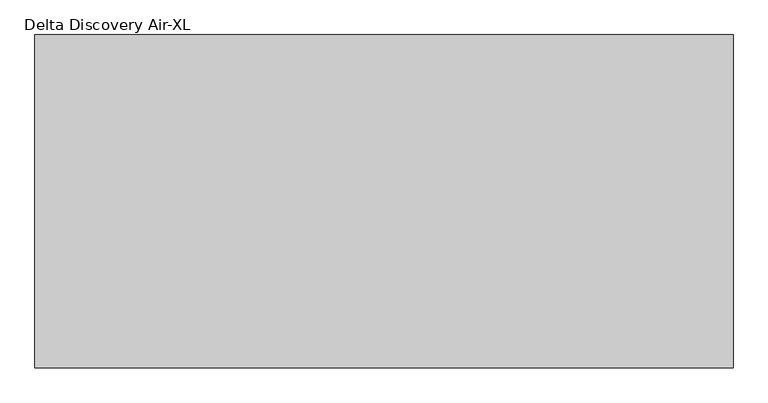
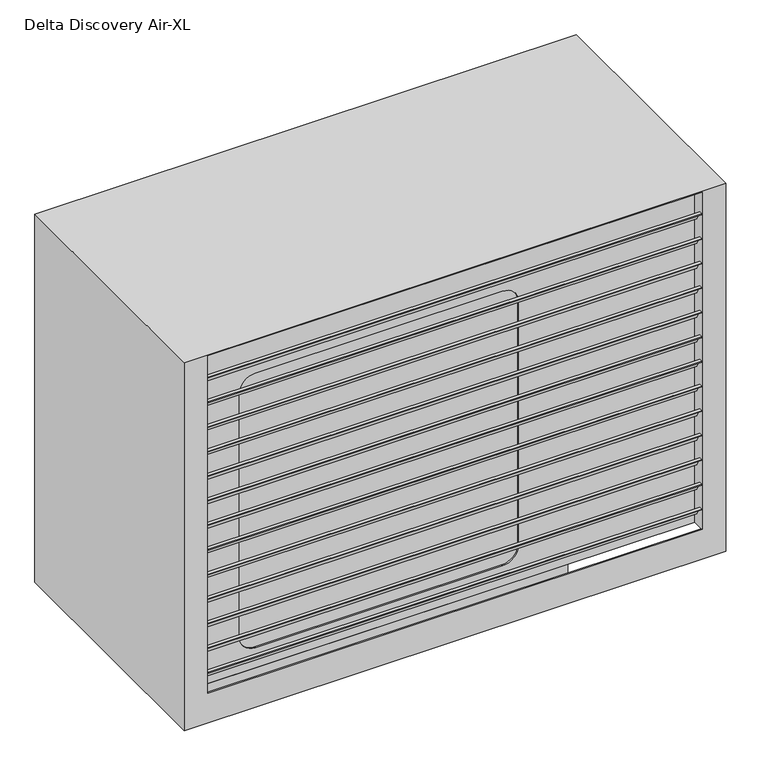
"""IFC4 building model written with IfcOpenShell, lengths in millimetres: unitary equipment geometry, DERS_420_AM_AEB_Delta Discovery Air_M&G : Delta Discovery Air-XL."""

from ifc_helpers import new_model, si_unit, frame, origin, place, context, project, spatial, polyline, circle_curve, outline, extrude, source, transform, mapped, element, save
from ifc_brep_helpers import plane_surface, revolved_surface, advanced_brep


def delta_discovery_air_xl_14b97afa(model_context):
    return source(origin(), model_context, "Body", "SolidModel", [
        extrude(outline(polyline([(-806.0, 1183.0669404), (-806.0, 1185.0669404), (-795.1452995, 1185.0669404), (-777.4452995, 1154.4096411), (-767.8, 1154.4096411), (-767.8, 1152.4096411), (-778.6, 1152.4096411), (-796.3, 1183.0669404), (-806.0, 1183.0669404)])), frame((-769.0, 0.0, 0.0), z_axis=(1.0, 0.0, 0.0), x_axis=(0.0, 1.0, 0.0)), (0.0, 0.0, 1.0), 1538.0),
        extrude(outline(polyline([(-806.0, 1102.038382), (-806.0, 1104.038382), (-795.1452995, 1104.038382), (-777.4452995, 1073.3810827), (-767.8, 1073.3810827), (-767.8, 1071.3810827), (-778.6, 1071.3810827), (-796.3, 1102.038382), (-806.0, 1102.038382)])), frame((-769.0, 0.0, 0.0), z_axis=(1.0, 0.0, 0.0), x_axis=(0.0, 1.0, 0.0)), (0.0, 0.0, 1.0), 1538.0),
        extrude(outline(polyline([(-806.0, 1021.0098236), (-806.0, 1023.0098236), (-795.1452995, 1023.0098236), (-777.4452995, 992.3525244), (-767.8, 992.3525244), (-767.8, 990.3525244), (-778.6, 990.3525244), (-796.3, 1021.0098236), (-806.0, 1021.0098236)])), frame((-769.0, 0.0, 0.0), z_axis=(1.0, 0.0, 0.0), x_axis=(0.0, 1.0, 0.0)), (0.0, 0.0, 1.0), 1538.0),
        extrude(outline(polyline([(-38.2, 1183.0669404), (-38.2, 1185.0669404), (-27.3452995, 1185.0669404), (-9.6452995, 1154.4096411), (0.0, 1154.4096411), (0.0, 1152.4096411), (-10.8, 1152.4096411), (-28.5, 1183.0669404), (-38.2, 1183.0669404)])), frame((-769.0, 0.0, 0.0), z_axis=(1.0, 0.0, 0.0), x_axis=(0.0, 1.0, 0.0)), (0.0, 0.0, 1.0), 1538.0),
        extrude(outline(polyline([(-38.2, 1102.038382), (-38.2, 1104.038382), (-27.3452995, 1104.038382), (-9.6452995, 1073.3810827), (0.0, 1073.3810827), (0.0, 1071.3810827), (-10.8, 1071.3810827), (-28.5, 1102.038382), (-38.2, 1102.038382)])), frame((-769.0, 0.0, 0.0), z_axis=(1.0, 0.0, 0.0), x_axis=(0.0, 1.0, 0.0)), (0.0, 0.0, 1.0), 1538.0),
        extrude(outline(polyline([(-38.2, 1021.0098236), (-38.2, 1023.0098236), (-27.3452995, 1023.0098236), (-9.6452995, 992.3525244), (0.0, 992.3525244), (0.0, 990.3525244), (-10.8, 990.3525244), (-28.5, 1021.0098236), (-38.2, 1021.0098236)])), frame((-769.0, 0.0, 0.0), z_axis=(1.0, 0.0, 0.0), x_axis=(0.0, 1.0, 0.0)), (0.0, 0.0, 1.0), 1538.0),
        extrude(outline(polyline([(-806.0, 939.9812653), (-806.0, 941.9812653), (-795.1452995, 941.9812653), (-777.4452995, 911.323966), (-767.8, 911.323966), (-767.8, 909.323966), (-778.6, 909.323966), (-796.3, 939.9812653), (-806.0, 939.9812653)])), frame((-769.0, 0.0, 0.0), z_axis=(1.0, 0.0, 0.0), x_axis=(0.0, 1.0, 0.0)), (0.0, 0.0, 1.0), 1538.0),
        extrude(outline(polyline([(-806.0, 858.9527069), (-806.0, 860.9527069), (-795.1452995, 860.9527069), (-777.4452995, 830.2954076), (-767.8, 830.2954076), (-767.8, 828.2954076), (-778.6, 828.2954076), (-796.3, 858.9527069), (-806.0, 858.9527069)])), frame((-769.0, 0.0, 0.0), z_axis=(1.0, 0.0, 0.0), x_axis=(0.0, 1.0, 0.0)), (0.0, 0.0, 1.0), 1538.0),
        extrude(outline(polyline([(-806.0, 777.9241485), (-806.0, 779.9241485), (-795.1452995, 779.9241485), (-777.4452995, 749.2668492), (-767.8, 749.2668492), (-767.8, 747.2668492), (-778.6, 747.2668492), (-796.3, 777.9241485), (-806.0, 777.9241485)])), frame((-769.0, 0.0, 0.0), z_axis=(1.0, 0.0, 0.0), x_axis=(0.0, 1.0, 0.0)), (0.0, 0.0, 1.0), 1538.0),
        extrude(outline(polyline([(-806.0, 696.8955901), (-806.0, 698.8955901), (-795.1452995, 698.8955901), (-777.4452995, 668.2382908), (-767.8, 668.2382908), (-767.8, 666.2382908), (-778.6, 666.2382908), (-796.3, 696.8955901), (-806.0, 696.8955901)])), frame((-769.0, 0.0, 0.0), z_axis=(1.0, 0.0, 0.0), x_axis=(0.0, 1.0, 0.0)), (0.0, 0.0, 1.0), 1538.0),
        extrude(outline(polyline([(-806.0, 615.8670317), (-806.0, 617.8670317), (-795.1452995, 617.8670317), (-777.4452995, 587.2097324), (-767.8, 587.2097324), (-767.8, 585.2097324), (-778.6, 585.2097324), (-796.3, 615.8670317), (-806.0, 615.8670317)])), frame((-769.0, 0.0, 0.0), z_axis=(1.0, 0.0, 0.0), x_axis=(0.0, 1.0, 0.0)), (0.0, 0.0, 1.0), 1538.0),
        extrude(outline(polyline([(-806.0, 534.8384733), (-806.0, 536.8384733), (-795.1452995, 536.8384733), (-777.4452995, 506.181174), (-767.8, 506.181174), (-767.8, 504.181174), (-778.6, 504.181174), (-796.3, 534.8384733), (-806.0, 534.8384733)])), frame((-769.0, 0.0, 0.0), z_axis=(1.0, 0.0, 0.0), x_axis=(0.0, 1.0, 0.0)), (0.0, 0.0, 1.0), 1538.0),
        extrude(outline(polyline([(-806.0, 453.8099149), (-806.0, 455.8099149), (-795.1452995, 455.8099149), (-777.4452995, 425.1526156), (-767.8, 425.1526156), (-767.8, 423.1526156), (-778.6, 423.1526156), (-796.3, 453.8099149), (-806.0, 453.8099149)])), frame((-769.0, 0.0, 0.0), z_axis=(1.0, 0.0, 0.0), x_axis=(0.0, 1.0, 0.0)), (0.0, 0.0, 1.0), 1538.0),
        extrude(outline(polyline([(-806.0, 372.7813565), (-806.0, 374.7813565), (-795.1452995, 374.7813565), (-777.4452995, 344.1240572), (-767.8, 344.1240572), (-767.8, 342.1240572), (-778.6, 342.1240572), (-796.3, 372.7813565), (-806.0, 372.7813565)])), frame((-769.0, 0.0, 0.0), z_axis=(1.0, 0.0, 0.0), x_axis=(0.0, 1.0, 0.0)), (0.0, 0.0, 1.0), 1538.0),
        extrude(outline(polyline([(-806.0, 1264.0954988), (-806.0, 1266.0954988), (-795.1452995, 1266.0954988), (-777.4452995, 1235.4381995), (-767.8, 1235.4381995), (-767.8, 1233.4381995), (-778.6, 1233.4381995), (-796.3, 1264.0954988), (-806.0, 1264.0954988)])), frame((-769.0, 0.0, 0.0), z_axis=(1.0, 0.0, 0.0), x_axis=(0.0, 1.0, 0.0)), (0.0, 0.0, 1.0), 1538.0),
        extrude(outline(polyline([(-38.2, 939.9812653), (-38.2, 941.9812653), (-27.3452995, 941.9812653), (-9.6452995, 911.323966), (0.0, 911.323966), (0.0, 909.323966), (-10.8, 909.323966), (-28.5, 939.9812653), (-38.2, 939.9812653)])), frame((-769.0, 0.0, 0.0), z_axis=(1.0, 0.0, 0.0), x_axis=(0.0, 1.0, 0.0)), (0.0, 0.0, 1.0), 1538.0),
        extrude(outline(polyline([(-38.2, 858.9527069), (-38.2, 860.9527069), (-27.3452995, 860.9527069), (-9.6452995, 830.2954076), (0.0, 830.2954076), (0.0, 828.2954076), (-10.8, 828.2954076), (-28.5, 858.9527069), (-38.2, 858.9527069)])), frame((-769.0, 0.0, 0.0), z_axis=(1.0, 0.0, 0.0), x_axis=(0.0, 1.0, 0.0)), (0.0, 0.0, 1.0), 1538.0),
        extrude(outline(polyline([(-38.2, 777.9241485), (-38.2, 779.9241485), (-27.3452995, 779.9241485), (-9.6452995, 749.2668492), (0.0, 749.2668492), (0.0, 747.2668492), (-10.8, 747.2668492), (-28.5, 777.9241485), (-38.2, 777.9241485)])), frame((-769.0, 0.0, 0.0), z_axis=(1.0, 0.0, 0.0), x_axis=(0.0, 1.0, 0.0)), (0.0, 0.0, 1.0), 1538.0),
        extrude(outline(polyline([(-38.2, 696.8955901), (-38.2, 698.8955901), (-27.3452995, 698.8955901), (-9.6452995, 668.2382908), (0.0, 668.2382908), (0.0, 666.2382908), (-10.8, 666.2382908), (-28.5, 696.8955901), (-38.2, 696.8955901)])), frame((-769.0, 0.0, 0.0), z_axis=(1.0, 0.0, 0.0), x_axis=(0.0, 1.0, 0.0)), (0.0, 0.0, 1.0), 1538.0),
        extrude(outline(polyline([(-38.2, 615.8670317), (-38.2, 617.8670317), (-27.3452995, 617.8670317), (-9.6452995, 587.2097324), (0.0, 587.2097324), (0.0, 585.2097324), (-10.8, 585.2097324), (-28.5, 615.8670317), (-38.2, 615.8670317)])), frame((-769.0, 0.0, 0.0), z_axis=(1.0, 0.0, 0.0), x_axis=(0.0, 1.0, 0.0)), (0.0, 0.0, 1.0), 1538.0),
        extrude(outline(polyline([(-38.2, 534.8384733), (-38.2, 536.8384733), (-27.3452995, 536.8384733), (-9.6452995, 506.181174), (0.0, 506.181174), (0.0, 504.181174), (-10.8, 504.181174), (-28.5, 534.8384733), (-38.2, 534.8384733)])), frame((-769.0, 0.0, 0.0), z_axis=(1.0, 0.0, 0.0), x_axis=(0.0, 1.0, 0.0)), (0.0, 0.0, 1.0), 1538.0),
        extrude(outline(polyline([(-38.2, 453.8099149), (-38.2, 455.8099149), (-27.3452995, 455.8099149), (-9.6452995, 425.1526156), (0.0, 425.1526156), (0.0, 423.1526156), (-10.8, 423.1526156), (-28.5, 453.8099149), (-38.2, 453.8099149)])), frame((-769.0, 0.0, 0.0), z_axis=(1.0, 0.0, 0.0), x_axis=(0.0, 1.0, 0.0)), (0.0, 0.0, 1.0), 1538.0),
        extrude(outline(polyline([(-38.2, 372.7813565), (-38.2, 374.7813565), (-27.3452995, 374.7813565), (-9.6452995, 344.1240572), (0.0, 344.1240572), (0.0, 342.1240572), (-10.8, 342.1240572), (-28.5, 372.7813565), (-38.2, 372.7813565)])), frame((-769.0, 0.0, 0.0), z_axis=(1.0, 0.0, 0.0), x_axis=(0.0, 1.0, 0.0)), (0.0, 0.0, 1.0), 1538.0),
        extrude(outline(polyline([(-38.2, 1264.0954988), (-38.2, 1266.0954988), (-27.3452995, 1266.0954988), (-9.6452995, 1235.4381995), (0.0, 1235.4381995), (0.0, 1233.4381995), (-10.8, 1233.4381995), (-28.5, 1264.0954988), (-38.2, 1264.0954988)])), frame((-769.0, 0.0, 0.0), z_axis=(1.0, 0.0, 0.0), x_axis=(0.0, 1.0, 0.0)), (0.0, 0.0, 1.0), 1538.0),
        extrude(outline(polyline([(-38.2, 291.7527981), (-38.2, 293.7527981), (-27.3452995, 293.7527981), (-9.6452995, 263.0954988), (0.0, 263.0954988), (0.0, 261.0954988), (-10.8, 261.0954988), (-28.5, 291.7527981), (-38.2, 291.7527981)])), frame((-769.0, 0.0, 0.0), z_axis=(1.0, 0.0, 0.0), x_axis=(0.0, 1.0, 0.0)), (0.0, 0.0, 1.0), 1538.0),
        extrude(outline(polyline([(-806.0, 291.7527981), (-806.0, 293.7527981), (-795.1452995, 293.7527981), (-777.4452995, 263.0954988), (-767.8, 263.0954988), (-767.8, 261.0954988), (-778.6, 261.0954988), (-796.3, 291.7527981), (-806.0, 291.7527981)])), frame((-769.0, 0.0, 0.0), z_axis=(1.0, 0.0, 0.0), x_axis=(0.0, 1.0, 0.0)), (0.0, 0.0, 1.0), 1538.0),
        extrude(outline(polyline([(379.0, -705.0), (-776.0, -705.0), (-776.0, -240.0), (379.0, -240.0), (379.0, -705.0)])), frame((0.0, 0.0, 192.0954988), z_axis=(0.0, 0.0, 1.0), x_axis=(1.0, 0.0, 0.0)), (0.0, 0.0, 1.0), 1005.0),
        extrude(outline(polyline([(-796.0, -220.0), (399.0, -220.0), (399.0, -725.0), (-796.0, -725.0), (-796.0, -220.0)])), frame((0.0, 0.0, 120.0954988), z_axis=(0.0, 0.0, 1.0), x_axis=(1.0, 0.0, 0.0)), (0.0, 0.0, 1.0), 72.0),
        advanced_brep(
        [(-844.0, 0.0, 1341.0954988), (-844.0, -806.0, 1341.0954988), (844.0, -806.0, 1341.0954988), (844.0, 0.0, 1341.0954988), (-770.0, -40.0, 226.0954988), (770.0, -40.0, 226.0954988), (770.0, -4.0, 226.0954988), (774.0, -4.0, 226.0954988), (774.0, -44.0, 226.0954988), (-774.0, -44.0, 226.0954988), (-774.0, -4.0, 226.0954988), (-770.0, -4.0, 226.0954988), (770.0, -766.0, 226.0954988), (-770.0, -766.0, 226.0954988), (-770.0, -802.0, 226.0954988), (-774.0, -802.0, 226.0954988), (-774.0, -762.0, 226.0954988), (774.0, -762.0, 226.0954988), (774.0, -802.0, 226.0954988), (770.0, -802.0, 226.0954988), (-844.0, 0.0, 128.0954988), (-844.0, -806.0, 128.0954988), (844.0, -806.0, 128.0954988), (770.0, -806.0, 1337.0954988), (770.0, -806.0, 226.0954988), (-770.0, -806.0, 226.0954988), (-770.0, -806.0, 1337.0954988), (844.0, 0.0, 128.0954988), (-770.0, -766.0, 1337.0954988), (770.0, -766.0, 1337.0954988), (-599.0, -766.0, 1196.0954988), (171.0, -766.0, 1196.0954988), (221.0, -766.0, 1146.0954988), (221.0, -766.0, 342.0954988), (171.0, -766.0, 292.0954988), (-599.0, -766.0, 292.0954988), (-649.0, -766.0, 342.0954988), (-649.0, -766.0, 1146.0954988), (770.0, 0.0, 226.0954988), (770.0, 0.0, 1337.0954988), (-770.0, 0.0, 1337.0954988), (-770.0, 0.0, 226.0954988), (770.0, -40.0, 1337.0954988), (-770.0, -40.0, 1337.0954988), (171.0, -40.0, 1196.0954988), (-599.0, -40.0, 1196.0954988), (-649.0, -40.0, 1146.0954988), (-649.0, -40.0, 342.0954988), (-599.0, -40.0, 292.0954988), (171.0, -40.0, 292.0954988), (221.0, -40.0, 342.0954988), (221.0, -40.0, 1146.0954988), (-840.0, -802.0, 128.0954988), (-840.0, -4.0, 128.0954988), (-840.0, -4.0, 1337.0954988), (-840.0, -802.0, 1337.0954988), (840.0, -4.0, 128.0954988), (840.0, -4.0, 1337.0954988), (774.0, -4.0, 1337.0954988), (-774.0, -4.0, 1337.0954988), (-774.0, -44.0, 1337.0954988), (774.0, -44.0, 1337.0954988), (-599.0, -44.0, 1196.0954988), (171.0, -44.0, 1196.0954988), (221.0, -44.0, 1146.0954988), (221.0, -44.0, 342.0954988), (171.0, -44.0, 292.0954988), (-599.0, -44.0, 292.0954988), (-649.0, -44.0, 342.0954988), (-649.0, -44.0, 1146.0954988), (840.0, -802.0, 128.0954988), (840.0, -802.0, 1337.0954988), (-774.0, -802.0, 1337.0954988), (774.0, -802.0, 1337.0954988), (774.0, -762.0, 1337.0954988), (-774.0, -762.0, 1337.0954988), (171.0, -762.0, 1196.0954988), (-599.0, -762.0, 1196.0954988), (-649.0, -762.0, 1146.0954988), (-649.0, -762.0, 342.0954988), (-599.0, -762.0, 292.0954988), (171.0, -762.0, 292.0954988), (221.0, -762.0, 342.0954988), (221.0, -762.0, 1146.0954988)],
        [
            (0, 1),
            (1, 2),
            (2, 3),
            (3, 0),
            (4, 5),
            (5, 6),
            (6, 7),
            (7, 8),
            (8, 9),
            (9, 10),
            (10, 11),
            (11, 4),
            (12, 13),
            (13, 14),
            (14, 15),
            (15, 16),
            (16, 17),
            (17, 18),
            (18, 19),
            (19, 12),
            (0, 20),
            (20, 21),
            (21, 1),
            (21, 22),
            (22, 2),
            (23, 24),
            (24, 25),
            (25, 26),
            (26, 23),
            (22, 27),
            (27, 3),
            (25, 14),
            (13, 28),
            (28, 26),
            (12, 29),
            (29, 28),
            (30, 31),
            (31, 32, circle_curve(frame((171.0, -766.0, 1146.0954988), z_axis=(0.0, 1.0, 0.0), x_axis=(1.0, 0.0, 0.0)), 50.0)),
            (32, 33),
            (33, 34, circle_curve(frame((171.0, -766.0, 342.0954988), z_axis=(0.0, 1.0, 0.0), x_axis=(1.0, 0.0, 0.0)), 50.0)),
            (34, 35),
            (35, 36, circle_curve(frame((-599.0, -766.0, 342.0954988), z_axis=(0.0, 1.0, 0.0), x_axis=(1.0, 0.0, 0.0)), 50.0)),
            (36, 37),
            (37, 30, circle_curve(frame((-599.0, -766.0, 1146.0954988), z_axis=(0.0, 1.0, 0.0), x_axis=(1.0, 0.0, 0.0)), 50.0)),
            (23, 29),
            (19, 24),
            (27, 20),
            (38, 39),
            (39, 40),
            (40, 41),
            (41, 38),
            (38, 6),
            (5, 42),
            (42, 39),
            (4, 43),
            (43, 42),
            (44, 45),
            (45, 46, circle_curve(frame((-599.0, -40.0, 1146.0954988), z_axis=(0.0, -1.0, 0.0), x_axis=(1.0, 0.0, 0.0)), 50.0)),
            (46, 47),
            (47, 48, circle_curve(frame((-599.0, -40.0, 342.0954988), z_axis=(0.0, -1.0, 0.0), x_axis=(1.0, 0.0, 0.0)), 50.0)),
            (48, 49),
            (49, 50, circle_curve(frame((171.0, -40.0, 342.0954988), z_axis=(0.0, -1.0, 0.0), x_axis=(1.0, 0.0, 0.0)), 50.0)),
            (50, 51),
            (51, 44, circle_curve(frame((171.0, -40.0, 1146.0954988), z_axis=(0.0, -1.0, 0.0), x_axis=(1.0, 0.0, 0.0)), 50.0)),
            (11, 41),
            (40, 43),
            (52, 53),
            (53, 54),
            (54, 55),
            (55, 52),
            (53, 56),
            (56, 57),
            (57, 58),
            (58, 7),
            (6, 11),
            (10, 59),
            (59, 54),
            (9, 60),
            (60, 59),
            (8, 61),
            (61, 60),
            (62, 63),
            (63, 64, circle_curve(frame((171.0, -44.0, 1146.0954988), z_axis=(0.0, 1.0, 0.0), x_axis=(1.0, 0.0, 0.0)), 50.0)),
            (64, 65),
            (65, 66, circle_curve(frame((171.0, -44.0, 342.0954988), z_axis=(0.0, 1.0, 0.0), x_axis=(1.0, 0.0, 0.0)), 50.0)),
            (66, 67),
            (67, 68, circle_curve(frame((-599.0, -44.0, 342.0954988), z_axis=(0.0, 1.0, 0.0), x_axis=(1.0, 0.0, 0.0)), 50.0)),
            (68, 69),
            (69, 62, circle_curve(frame((-599.0, -44.0, 1146.0954988), z_axis=(0.0, 1.0, 0.0), x_axis=(1.0, 0.0, 0.0)), 50.0)),
            (58, 61),
            (56, 70),
            (70, 71),
            (71, 57),
            (70, 52),
            (55, 72),
            (72, 15),
            (14, 19),
            (18, 73),
            (73, 71),
            (17, 74),
            (74, 73),
            (16, 75),
            (75, 74),
            (76, 77),
            (77, 78, circle_curve(frame((-599.0, -762.0, 1146.0954988), z_axis=(0.0, -1.0, 0.0), x_axis=(1.0, 0.0, 0.0)), 50.0)),
            (78, 79),
            (79, 80, circle_curve(frame((-599.0, -762.0, 342.0954988), z_axis=(0.0, -1.0, 0.0), x_axis=(1.0, 0.0, 0.0)), 50.0)),
            (80, 81),
            (81, 82, circle_curve(frame((171.0, -762.0, 342.0954988), z_axis=(0.0, -1.0, 0.0), x_axis=(1.0, 0.0, 0.0)), 50.0)),
            (82, 83),
            (83, 76, circle_curve(frame((171.0, -762.0, 1146.0954988), z_axis=(0.0, -1.0, 0.0), x_axis=(1.0, 0.0, 0.0)), 50.0)),
            (72, 75),
            (44, 63),
            (62, 45),
            (76, 31),
            (30, 77),
            (69, 46),
            (37, 78),
            (68, 47),
            (36, 79),
            (67, 48),
            (35, 80),
            (66, 49),
            (34, 81),
            (65, 50),
            (33, 82),
            (64, 51),
            (32, 83),
        ],
        [
            plane_surface(frame((-844.0, -806.0, 1341.0954988), z_axis=(0.0, 0.0, 1.0), x_axis=(0.0, -1.0, 0.0))),
            plane_surface(frame((-844.0, -806.0, 226.0954988), z_axis=(0.0, 0.0, -1.0), x_axis=(0.0, 1.0, 0.0))),
            plane_surface(frame((-844.0, 0.0, 1341.0954988), z_axis=(-1.0, 0.0, 0.0), x_axis=(0.0, 0.0, -1.0))),
            plane_surface(frame((770.0, -806.0, 1341.0954988), z_axis=(0.0, -1.0, 0.0), x_axis=(0.0, 0.0, -1.0))),
            plane_surface(frame((844.0, -806.0, 1341.0954988), z_axis=(1.0, 0.0, 0.0), x_axis=(0.0, 0.0, -1.0))),
            plane_surface(frame((-770.0, -806.0, 1341.0954988), z_axis=(1.0, 0.0, 0.0), x_axis=(0.0, 0.0, -1.0))),
            plane_surface(frame((-770.0, -766.0, 1341.0954988), z_axis=(0.0, -1.0, 0.0), x_axis=(0.0, 0.0, -1.0))),
            plane_surface(frame((770.0, -766.0, 1341.0954988), z_axis=(-1.0, 0.0, 0.0), x_axis=(0.0, 0.0, -1.0))),
            plane_surface(frame((844.0, 0.0, 1341.0954988), z_axis=(0.0, 1.0, 0.0), x_axis=(0.0, 0.0, -1.0))),
            plane_surface(frame((770.0, 0.0, 1341.0954988), z_axis=(-1.0, 0.0, 0.0), x_axis=(0.0, 0.0, -1.0))),
            plane_surface(frame((770.0, -40.0, 1341.0954988), z_axis=(0.0, 1.0, 0.0), x_axis=(0.0, 0.0, -1.0))),
            plane_surface(frame((-770.0, -40.0, 1341.0954988), z_axis=(1.0, 0.0, 0.0), x_axis=(0.0, 0.0, -1.0))),
            plane_surface(frame((-840.0, -802.0, 1341.0954988), z_axis=(1.0, 0.0, 0.0), x_axis=(0.0, 0.0, -1.0))),
            plane_surface(frame((-840.0, -4.0, 1341.0954988), z_axis=(0.0, -1.0, 0.0), x_axis=(0.0, 0.0, -1.0))),
            plane_surface(frame((-774.0, -4.0, 1341.0954988), z_axis=(-1.0, 0.0, 0.0), x_axis=(0.0, 0.0, -1.0))),
            plane_surface(frame((-774.0, -44.0, 1341.0954988), z_axis=(0.0, -1.0, 0.0), x_axis=(0.0, 0.0, -1.0))),
            plane_surface(frame((774.0, -44.0, 1341.0954988), z_axis=(1.0, 0.0, 0.0), x_axis=(0.0, 0.0, -1.0))),
            plane_surface(frame((840.0, -4.0, 1341.0954988), z_axis=(-1.0, 0.0, 0.0), x_axis=(0.0, 0.0, -1.0))),
            plane_surface(frame((840.0, -802.0, 1341.0954988), z_axis=(0.0, 1.0, 0.0), x_axis=(0.0, 0.0, -1.0))),
            plane_surface(frame((774.0, -802.0, 1341.0954988), z_axis=(1.0, 0.0, 0.0), x_axis=(0.0, 0.0, -1.0))),
            plane_surface(frame((774.0, -762.0, 1341.0954988), z_axis=(0.0, 1.0, 0.0), x_axis=(0.0, 0.0, -1.0))),
            plane_surface(frame((-774.0, -762.0, 1341.0954988), z_axis=(-1.0, 0.0, 0.0), x_axis=(0.0, 0.0, -1.0))),
            plane_surface(frame((171.0, -973.4559026, 1196.0954988), z_axis=(0.0, 0.0, -1.0), x_axis=(0.0, 1.0, 0.0))),
            revolved_surface(polyline([(-549.0, -44.0, 1146.0954988), (-549.0, -40.0, 1146.0954988)]), (-599.0, 100.0, 1146.0954988), (0.0, -1.0, 0.0)),
            revolved_surface(polyline([(-549.0, -766.0, 1146.0954988), (-549.0, -762.0, 1146.0954988)]), (-599.0, 100.0, 1146.0954988), (0.0, -1.0, 0.0)),
            plane_surface(frame((-649.0, -973.4559026, 1146.0954988), z_axis=(1.0, 0.0, 0.0), x_axis=(0.0, 1.0, 0.0))),
            revolved_surface(polyline([(-549.0, -44.0, 342.0954988), (-549.0, -40.0, 342.0954988)]), (-599.0, 100.0, 342.0954988), (0.0, -1.0, 0.0)),
            revolved_surface(polyline([(-549.0, -766.0, 342.0954988), (-549.0, -762.0, 342.0954988)]), (-599.0, 100.0, 342.0954988), (0.0, -1.0, 0.0)),
            plane_surface(frame((-599.0, -973.4559026, 292.0954988), z_axis=(0.0, 0.0, 1.0), x_axis=(0.0, 1.0, 0.0))),
            revolved_surface(polyline([(221.0, -44.0, 342.0954988), (221.0, -40.0, 342.0954988)]), (171.0, 100.0, 342.0954988), (0.0, -1.0, 0.0)),
            revolved_surface(polyline([(221.0, -766.0, 342.0954988), (221.0, -762.0, 342.0954988)]), (171.0, 100.0, 342.0954988), (0.0, -1.0, 0.0)),
            plane_surface(frame((221.0, -973.4559026, 342.0954988), z_axis=(-1.0, 0.0, 0.0), x_axis=(0.0, 1.0, 0.0))),
            revolved_surface(polyline([(221.0, -44.0, 1146.0954988), (221.0, -40.0, 1146.0954988)]), (171.0, 100.0, 1146.0954988), (0.0, -1.0, 0.0)),
            revolved_surface(polyline([(221.0, -766.0, 1146.0954988), (221.0, -762.0, 1146.0954988)]), (171.0, 100.0, 1146.0954988), (0.0, -1.0, 0.0)),
            plane_surface(frame((-844.0, 0.0, 1337.0954988), z_axis=(0.0, 0.0, -1.0), x_axis=(1.0, 0.0, 0.0))),
            plane_surface(frame((-844.0, -806.0, 128.0954988), z_axis=(0.0, 0.0, -1.0), x_axis=(0.0, 1.0, 0.0))),
            plane_surface(frame((-844.0, -806.0, 226.0954988), z_axis=(0.0, 0.0, 1.0), x_axis=(0.0, -1.0, 0.0))),
        ],
        [
            (0, [[1, 2, 3, 4]]),
            (1, [[5, 6, 7, 8, 9, 10, 11, 12]]),
            (1, [[13, 14, 15, 16, 17, 18, 19, 20]]),
            (2, [[-1, 21, 22, 23]]),
            (3, [[-23, 24, 25, -2], [26, 27, 28, 29]]),
            (4, [[-3, -25, 30, 31]]),
            (5, [[-28, 32, -14, 33, 34]]),
            (6, [[-13, 35, 36, -33], [37, 38, 39, 40, 41, 42, 43, 44]]),
            (7, [[-26, 45, -35, -20, 46]]),
            (8, [[-31, 47, -21, -4], [48, 49, 50, 51]]),
            (9, [[-48, 52, -6, 53, 54]]),
            (10, [[-5, 55, 56, -53], [57, 58, 59, 60, 61, 62, 63, 64]]),
            (11, [[-55, -12, 65, -50, 66]]),
            (12, [[67, 68, 69, 70]]),
            (13, [[-68, 71, 72, 73, 74, -7, 75, -11, 76, 77]]),
            (14, [[-10, 78, 79, -76]]),
            (15, [[-9, 80, 81, -78], [82, 83, 84, 85, 86, 87, 88, 89]]),
            (16, [[-8, -74, 90, -80]]),
            (17, [[-72, 91, 92, 93]]),
            (18, [[-92, 94, -70, 95, 96, -15, 97, -19, 98, 99]]),
            (19, [[-18, 100, 101, -98]]),
            (20, [[-17, 102, 103, -100], [104, 105, 106, 107, 108, 109, 110, 111]]),
            (21, [[-16, -96, 112, -102]]),
            (22, [[113, -82, 114, -57]]),
            (22, [[115, -37, 116, -104]]),
            (23, [[-114, -89, 117, -58]]),
            (24, [[-116, -44, 118, -105]]),
            (25, [[-117, -88, 119, -59]]),
            (25, [[-118, -43, 120, -106]]),
            (26, [[-119, -87, 121, -60]]),
            (27, [[-120, -42, 122, -107]]),
            (28, [[-121, -86, 123, -61]]),
            (28, [[-122, -41, 124, -108]]),
            (29, [[-123, -85, 125, -62]]),
            (30, [[-124, -40, 126, -109]]),
            (31, [[-125, -84, 127, -63]]),
            (31, [[-126, -39, 128, -110]]),
            (32, [[-113, -64, -127, -83]]),
            (33, [[-115, -111, -128, -38]]),
            (34, [[-29, -34, -36, -45]]),
            (34, [[-49, -54, -56, -66]]),
            (34, [[-69, -77, -79, -81, -90, -73, -93, -99, -101, -103, -112, -95]]),
            (35, [[-47, -30, -24, -22], [-94, -91, -71, -67]]),
            (36, [[-27, -46, -97, -32]]),
            (36, [[-51, -65, -75, -52]]),
        ],
    ),
    ])


if __name__ == "__main__":
    model = new_model("IFC4")
    model_context = context("Model", 3, world=origin())
    ifc_project = project(units=[si_unit("LENGTHUNIT", "METRE", prefix="MILLI")], contexts=[model_context])
    site = spatial("IfcSite", under=ifc_project)
    building = spatial("IfcBuilding", under=site)
    placement = place(None, origin())
    delta_discovery_air_xl_shape = delta_discovery_air_xl_14b97afa(model_context)
    element("IfcUnitaryEquipment", 1, ObjectType="DERS_420_AM_AEB_Delta Discovery Air_M&G : Delta Discovery Air-XL", at=placement, inside=building, context=model_context, shape_type="MappedRepresentation", body=[
        mapped(delta_discovery_air_xl_shape, transform((0.0, 0.0, 0.0), x_axis=(1.0, 0.0, 0.0), y_axis=(0.0, 1.0, 0.0), z_axis=(0.0, 0.0, 1.0))),
    ])
    save(model, "model.ifc")
